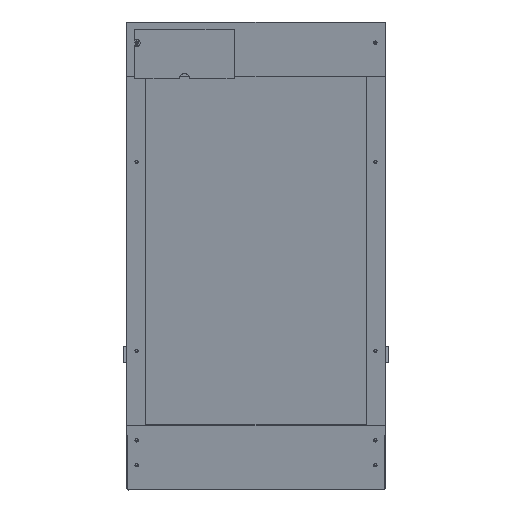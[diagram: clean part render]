
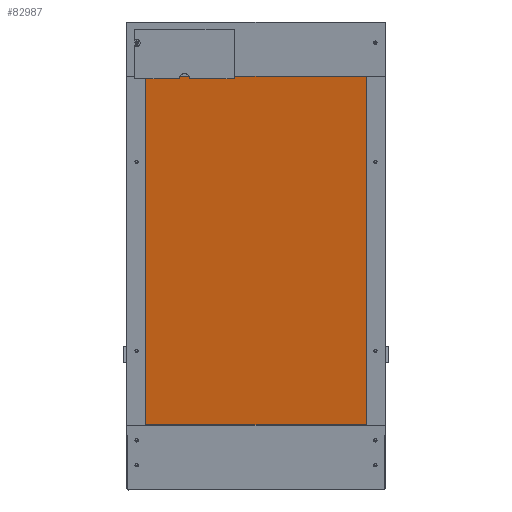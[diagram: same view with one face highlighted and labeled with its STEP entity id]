
A CAD part, top view. The second image highlights one B-rep face of the part: STEP entity #82987.
In plain terms, the highlighted planar face has unit normal (0, -0.174, 0.985).
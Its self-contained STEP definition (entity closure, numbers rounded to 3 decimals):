
#82818 = PLANE('',#82819);
#82819 = AXIS2_PLACEMENT_3D('',#82820,#82821,#82822);
#82820 = CARTESIAN_POINT('',(18.1,64.,86.285));
#82821 = DIRECTION('',(-0.,1.,0.));
#82822 = DIRECTION('',(0.,0.,-1.));
#82846 = PLANE('',#82847);
#82847 = AXIS2_PLACEMENT_3D('',#82848,#82849,#82850);
#82848 = CARTESIAN_POINT('',(241.9,240.675,111.437));
#82849 = DIRECTION('',(1.,0.,0.));
#82850 = DIRECTION('',(-0.,0.,1.));
#82874 = PLANE('',#82875);
#82875 = AXIS2_PLACEMENT_3D('',#82876,#82877,#82878);
#82876 = CARTESIAN_POINT('',(18.1,417.349,136.59));
#82877 = DIRECTION('',(0.,-1.,0.));
#82878 = DIRECTION('',(0.,0.,1.));
#82900 = PLANE('',#82901);
#82901 = AXIS2_PLACEMENT_3D('',#82902,#82903,#82904);
#82902 = CARTESIAN_POINT('',(18.1,240.675,111.437));
#82903 = DIRECTION('',(1.,0.,0.));
#82904 = DIRECTION('',(-0.,0.,1.));
#82917 = VERTEX_POINT('',#82918);
#82918 = CARTESIAN_POINT('',(241.9,417.349,148.59));
#82939 = EDGE_CURVE('',#82940,#82917,#82942,.T.);
#82940 = VERTEX_POINT('',#82941);
#82941 = CARTESIAN_POINT('',(18.1,417.349,148.59));
#82942 = SURFACE_CURVE('',#82943,(#82947,#82954),.PCURVE_S1.);
#82943 = LINE('',#82944,#82945);
#82944 = CARTESIAN_POINT('',(18.1,417.349,148.59));
#82945 = VECTOR('',#82946,1.);
#82946 = DIRECTION('',(1.,0.,0.));
#82947 = PCURVE('',#82874,#82948);
#82948 = DEFINITIONAL_REPRESENTATION('',(#82949),#82953);
#82949 = LINE('',#82950,#82951);
#82950 = CARTESIAN_POINT('',(12.,0.));
#82951 = VECTOR('',#82952,1.);
#82952 = DIRECTION('',(0.,-1.));
#82953 = ( GEOMETRIC_REPRESENTATION_CONTEXT(2) 
PARAMETRIC_REPRESENTATION_CONTEXT() REPRESENTATION_CONTEXT('2D SPACE',''
  ) );
#82954 = PCURVE('',#82955,#82960);
#82955 = PLANE('',#82956);
#82956 = AXIS2_PLACEMENT_3D('',#82957,#82958,#82959);
#82957 = CARTESIAN_POINT('',(18.1,417.349,148.59));
#82958 = DIRECTION('',(0.,0.174,-0.985));
#82959 = DIRECTION('',(0.,-0.985,-0.174));
#82960 = DEFINITIONAL_REPRESENTATION('',(#82961),#82965);
#82961 = LINE('',#82962,#82963);
#82962 = CARTESIAN_POINT('',(0.,0.));
#82963 = VECTOR('',#82964,1.);
#82964 = DIRECTION('',(0.,-1.));
#82965 = ( GEOMETRIC_REPRESENTATION_CONTEXT(2) 
PARAMETRIC_REPRESENTATION_CONTEXT() REPRESENTATION_CONTEXT('2D SPACE',''
  ) );
#82987 = ADVANCED_FACE('',(#82988),#82955,.F.);
#82988 = FACE_BOUND('',#82989,.F.);
#82989 = EDGE_LOOP('',(#82990,#82991,#83014,#83037));
#82990 = ORIENTED_EDGE('',*,*,#82939,.T.);
#82991 = ORIENTED_EDGE('',*,*,#82992,.T.);
#82992 = EDGE_CURVE('',#82917,#82993,#82995,.T.);
#82993 = VERTEX_POINT('',#82994);
#82994 = CARTESIAN_POINT('',(241.9,64.,86.285));
#82995 = SURFACE_CURVE('',#82996,(#83000,#83007),.PCURVE_S1.);
#82996 = LINE('',#82997,#82998);
#82997 = CARTESIAN_POINT('',(241.9,417.349,148.59));
#82998 = VECTOR('',#82999,1.);
#82999 = DIRECTION('',(0.,-0.985,-0.174));
#83000 = PCURVE('',#82955,#83001);
#83001 = DEFINITIONAL_REPRESENTATION('',(#83002),#83006);
#83002 = LINE('',#83003,#83004);
#83003 = CARTESIAN_POINT('',(0.,-223.8));
#83004 = VECTOR('',#83005,1.);
#83005 = DIRECTION('',(1.,0.));
#83006 = ( GEOMETRIC_REPRESENTATION_CONTEXT(2) 
PARAMETRIC_REPRESENTATION_CONTEXT() REPRESENTATION_CONTEXT('2D SPACE',''
  ) );
#83007 = PCURVE('',#82846,#83008);
#83008 = DEFINITIONAL_REPRESENTATION('',(#83009),#83013);
#83009 = LINE('',#83010,#83011);
#83010 = CARTESIAN_POINT('',(37.152,-176.675));
#83011 = VECTOR('',#83012,1.);
#83012 = DIRECTION('',(-0.174,0.985));
#83013 = ( GEOMETRIC_REPRESENTATION_CONTEXT(2) 
PARAMETRIC_REPRESENTATION_CONTEXT() REPRESENTATION_CONTEXT('2D SPACE',''
  ) );
#83014 = ORIENTED_EDGE('',*,*,#83015,.F.);
#83015 = EDGE_CURVE('',#83016,#82993,#83018,.T.);
#83016 = VERTEX_POINT('',#83017);
#83017 = CARTESIAN_POINT('',(18.1,64.,86.285));
#83018 = SURFACE_CURVE('',#83019,(#83023,#83030),.PCURVE_S1.);
#83019 = LINE('',#83020,#83021);
#83020 = CARTESIAN_POINT('',(18.1,64.,86.285));
#83021 = VECTOR('',#83022,1.);
#83022 = DIRECTION('',(1.,0.,0.));
#83023 = PCURVE('',#82955,#83024);
#83024 = DEFINITIONAL_REPRESENTATION('',(#83025),#83029);
#83025 = LINE('',#83026,#83027);
#83026 = CARTESIAN_POINT('',(358.8,0.));
#83027 = VECTOR('',#83028,1.);
#83028 = DIRECTION('',(0.,-1.));
#83029 = ( GEOMETRIC_REPRESENTATION_CONTEXT(2) 
PARAMETRIC_REPRESENTATION_CONTEXT() REPRESENTATION_CONTEXT('2D SPACE',''
  ) );
#83030 = PCURVE('',#82818,#83031);
#83031 = DEFINITIONAL_REPRESENTATION('',(#83032),#83036);
#83032 = LINE('',#83033,#83034);
#83033 = CARTESIAN_POINT('',(0.,0.));
#83034 = VECTOR('',#83035,1.);
#83035 = DIRECTION('',(0.,-1.));
#83036 = ( GEOMETRIC_REPRESENTATION_CONTEXT(2) 
PARAMETRIC_REPRESENTATION_CONTEXT() REPRESENTATION_CONTEXT('2D SPACE',''
  ) );
#83037 = ORIENTED_EDGE('',*,*,#83038,.F.);
#83038 = EDGE_CURVE('',#82940,#83016,#83039,.T.);
#83039 = SURFACE_CURVE('',#83040,(#83044,#83051),.PCURVE_S1.);
#83040 = LINE('',#83041,#83042);
#83041 = CARTESIAN_POINT('',(18.1,417.349,148.59));
#83042 = VECTOR('',#83043,1.);
#83043 = DIRECTION('',(0.,-0.985,-0.174));
#83044 = PCURVE('',#82955,#83045);
#83045 = DEFINITIONAL_REPRESENTATION('',(#83046),#83050);
#83046 = LINE('',#83047,#83048);
#83047 = CARTESIAN_POINT('',(0.,0.));
#83048 = VECTOR('',#83049,1.);
#83049 = DIRECTION('',(1.,0.));
#83050 = ( GEOMETRIC_REPRESENTATION_CONTEXT(2) 
PARAMETRIC_REPRESENTATION_CONTEXT() REPRESENTATION_CONTEXT('2D SPACE',''
  ) );
#83051 = PCURVE('',#82900,#83052);
#83052 = DEFINITIONAL_REPRESENTATION('',(#83053),#83057);
#83053 = LINE('',#83054,#83055);
#83054 = CARTESIAN_POINT('',(37.152,-176.675));
#83055 = VECTOR('',#83056,1.);
#83056 = DIRECTION('',(-0.174,0.985));
#83057 = ( GEOMETRIC_REPRESENTATION_CONTEXT(2) 
PARAMETRIC_REPRESENTATION_CONTEXT() REPRESENTATION_CONTEXT('2D SPACE',''
  ) );
